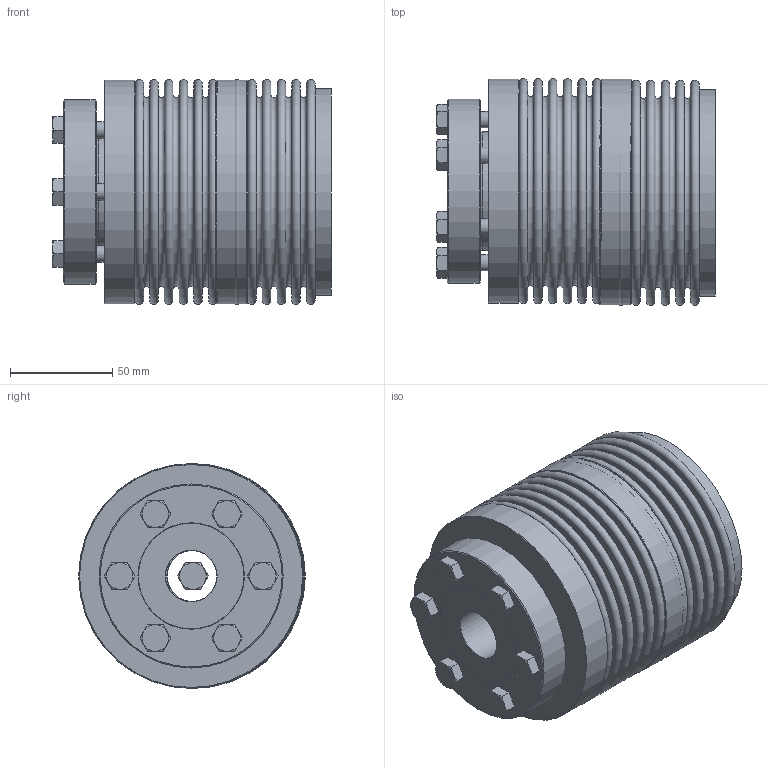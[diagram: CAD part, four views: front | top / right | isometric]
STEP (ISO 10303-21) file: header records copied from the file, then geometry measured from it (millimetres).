
FILE_DESCRIPTION( ( 'Unknown' ), '1' );
FILE_NAME( 'C:/Dokumente und Einstellungen/Sven/Desktop/homepage/cad - homepage/KB6/KB6-300-120.stp', 'Unknown', ( 'Unknown' ), ( 'Unknown' ), 'XStep 1.0', 'Unknown', ' ' );
FILE_SCHEMA( ( 'automotive_design' ) );
Length unit declared in the file: millimetre
Products named in the file (5): Assem1; Hex Screw GradeC_DIN_ISO 4018 - M8 x 30-NN_0; BL300_Standard; BA300_Standard_0; DR300_Standard_0
Bounding box: 136.39 x 110.82 x 110 mm (x, y, z)
Volume: 762616.2 mm3; surface area: 332928.5 mm2
Topology: 21 solids, 21 shells, 415 faces, 837 edges, 528 vertices
Faces by surface type: plane 184, cone 118, cylinder 69, torus 44
Full cylindrical faces by diameter (mm): 6.8 x18, 8 x13, 9 x18, 25 x3, 57.995 x3, 90 x3, 99.8 x4, 101 x4, 109.5 x3
Entity records: 2564 total; most frequent: DIRECTION 452, CARTESIAN_POINT 395, ORIENTED_EDGE 254, AXIS2_PLACEMENT_3D 220, EDGE_LOOP 208, FACE_OUTER_BOUND 142, EDGE_CURVE 127, VERTEX_POINT 115
